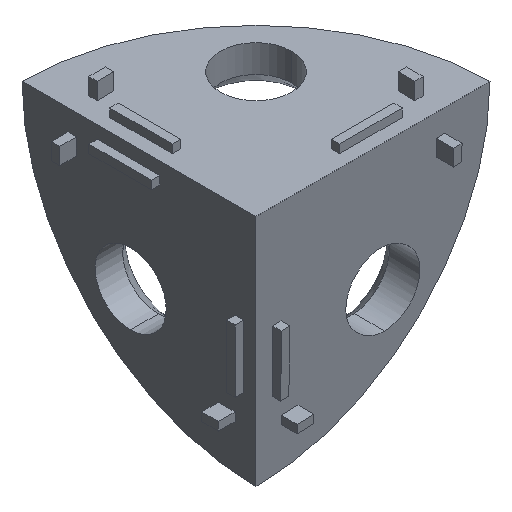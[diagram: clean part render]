
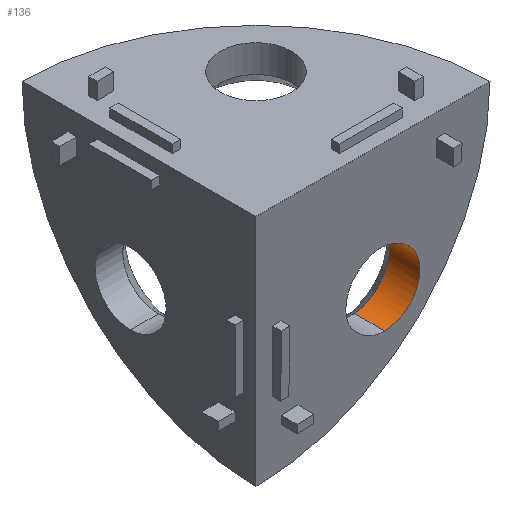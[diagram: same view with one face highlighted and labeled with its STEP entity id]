
A CAD part, isometric view. The second image highlights one B-rep face of the part: STEP entity #136.
In plain terms, the highlighted cylindrical face has radius 4.25 mm (diameter 8.5 mm), a partial arc.
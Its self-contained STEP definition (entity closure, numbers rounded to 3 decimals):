
#48 = ORIENTED_EDGE ( 'NONE', *, *, #531, .F. ) ;
#49 = CARTESIAN_POINT ( 'NONE',  ( 19.341, 3.515, -13.918 ) ) ;
#55 = CARTESIAN_POINT ( 'NONE',  ( 17.736, 2.208, -11.741 ) ) ;
#85 = VERTEX_POINT ( 'NONE', #1339 ) ;
#122 = CARTESIAN_POINT ( 'NONE',  ( 19.016, 3.633, -17.227 ) ) ;
#135 = EDGE_CURVE ( 'NONE', #672, #85, #337, .T. ) ;
#136 = ADVANCED_FACE ( 'NONE', ( #1470 ), #1717, .F. ) ;
#271 = CARTESIAN_POINT ( 'NONE',  ( 17.574, 3.297, -11.618 ) ) ;
#307 = EDGE_CURVE ( 'NONE', #2367, #672, #1448, .T. ) ;
#337 = B_SPLINE_CURVE_WITH_KNOTS ( 'NONE', 3,
 ( #617, #350, #55, #2262 ),
 .UNSPECIFIED., .F., .F.,
 ( 4, 4 ),
 ( 0., 0.003 ),
 .UNSPECIFIED. ) ;
#342 = CARTESIAN_POINT ( 'NONE',  ( 19.402, 3.528, -14.136 ) ) ;
#350 = CARTESIAN_POINT ( 'NONE',  ( 17.841, 1.106, -11.837 ) ) ;
#407 = CARTESIAN_POINT ( 'NONE',  ( 18.9, 3.635, -17.426 ) ) ;
#531 = EDGE_CURVE ( 'NONE', #1397, #85, #1660, .T. ) ;
#562 = CARTESIAN_POINT ( 'NONE',  ( 17.767, 3.316, -11.741 ) ) ;
#611 = CARTESIAN_POINT ( 'NONE',  ( 19.491, 3.552, -14.581 ) ) ;
#617 = CARTESIAN_POINT ( 'NONE',  ( 17.928, 0., -11.919 ) ) ;
#642 = CARTESIAN_POINT ( 'NONE',  ( 15.368, 0., -19.562 ) ) ;
#651 = ORIENTED_EDGE ( 'NONE', *, *, #135, .T. ) ;
#660 = CARTESIAN_POINT ( 'NONE',  ( 18.509, 3.635, -17.99 ) ) ;
#672 = VERTEX_POINT ( 'NONE', #2216 ) ;
#681 = EDGE_CURVE ( 'NONE', #1397, #2367, #1481, .T. ) ;
#787 = CARTESIAN_POINT ( 'NONE',  ( 17.948, 3.335, -11.879 ) ) ;
#833 = CARTESIAN_POINT ( 'NONE',  ( 19.518, 3.564, -14.81 ) ) ;
#879 = CARTESIAN_POINT ( 'NONE',  ( 17.058, 3.593, -19.079 ) ) ;
#897 = CARTESIAN_POINT ( 'NONE',  ( 18.193, 3.629, -18.318 ) ) ;
#980 = DIRECTION ( 'NONE',  ( 0.024, -0.999, -0.033 ) ) ;
#1005 = EDGE_LOOP ( 'NONE', ( #48, #1625, #1029, #651 ) ) ;
#1015 = CARTESIAN_POINT ( 'NONE',  ( 18.288, 3.371, -12.183 ) ) ;
#1029 = ORIENTED_EDGE ( 'NONE', *, *, #307, .T. ) ;
#1074 = CARTESIAN_POINT ( 'NONE',  ( 19.534, 3.584, -15.265 ) ) ;
#1122 = CARTESIAN_POINT ( 'NONE',  ( 16.188, 3.553, -19.371 ) ) ;
#1131 = CARTESIAN_POINT ( 'NONE',  ( 17.46, 3.608, -18.869 ) ) ;
#1218 = CARTESIAN_POINT ( 'NONE',  ( 15.117, 10.34, -19.216 ) ) ;
#1268 = CARTESIAN_POINT ( 'NONE',  ( 18.447, 3.389, -12.35 ) ) ;
#1320 = CARTESIAN_POINT ( 'NONE',  ( 19.524, 3.592, -15.492 ) ) ;
#1339 = CARTESIAN_POINT ( 'NONE',  ( 17.574, 3.297, -11.618 ) ) ;
#1364 = CARTESIAN_POINT ( 'NONE',  ( 15.74, 3.529, -19.444 ) ) ;
#1397 = VERTEX_POINT ( 'NONE', #2155 ) ;
#1448 =( BOUNDED_CURVE ( )  B_SPLINE_CURVE ( 3, ( #2328, #2082, #1846, #1588 ),
 .UNSPECIFIED., .F., .T. ) 
 B_SPLINE_CURVE_WITH_KNOTS ( ( 4, 4 ),
 ( 2.515, 5.008 ),
 .UNSPECIFIED. ) 
 CURVE ( )  GEOMETRIC_REPRESENTATION_ITEM ( )  RATIONAL_B_SPLINE_CURVE ( ( 1., 0.546, 0.546, 1. ) ) 
 REPRESENTATION_ITEM ( '' )  );
#1470 = FACE_OUTER_BOUND ( 'NONE', #1005, .T. ) ;
#1481 = LINE ( 'NONE', #1218, #2011 ) ;
#1521 = CARTESIAN_POINT ( 'NONE',  ( 18.731, 3.423, -12.703 ) ) ;
#1526 = DIRECTION ( 'NONE',  ( 0., 0.034, -0.999 ) ) ;
#1530 = AXIS2_PLACEMENT_3D ( 'NONE', #2020, #1768, #1526 ) ;
#1570 = CARTESIAN_POINT ( 'NONE',  ( 19.468, 3.608, -15.942 ) ) ;
#1588 = CARTESIAN_POINT ( 'NONE',  ( 17.928, 0., -11.919 ) ) ;
#1621 = CARTESIAN_POINT ( 'NONE',  ( 15.283, 3.501, -19.445 ) ) ;
#1625 = ORIENTED_EDGE ( 'NONE', *, *, #681, .T. ) ;
#1660 = B_SPLINE_CURVE_WITH_KNOTS ( 'NONE', 3,
 ( #1621, #1364, #1122, #879, #1131, #897, #660, #407, #122, #2312, #2065, #1827, #1570, #1320, #1074, #833, #611, #342, #49, #2257, #2014, #1763, #1521, #1268, #1015, #787, #562, #271 ),
 .UNSPECIFIED., .F., .F.,
 ( 4, 2, 2, 2, 2, 2, 2, 2, 2, 2, 2, 2, 2, 4 ),
 ( 0.003, 0.004, 0.006, 0.007, 0.008, 0.008, 0.009, 0.01, 0.01, 0.011, 0.012, 0.012, 0.013, 0.014 ),
 .UNSPECIFIED. ) ;
#1717 = CYLINDRICAL_SURFACE ( 'NONE', #1530, 4.25 ) ;
#1763 = CARTESIAN_POINT ( 'NONE',  ( 18.859, 3.44, -12.889 ) ) ;
#1768 = DIRECTION ( 'NONE',  ( 0.024, -0.999, -0.033 ) ) ;
#1827 = CARTESIAN_POINT ( 'NONE',  ( 19.421, 3.614, -16.168 ) ) ;
#1846 = CARTESIAN_POINT ( 'NONE',  ( 21.857, 0., -14.892 ) ) ;
#2011 = VECTOR ( 'NONE', #980, 1000. ) ;
#2014 = CARTESIAN_POINT ( 'NONE',  ( 19.084, 3.471, -13.283 ) ) ;
#2020 = CARTESIAN_POINT ( 'NONE',  ( 15.117, 10.197, -14.968 ) ) ;
#2065 = CARTESIAN_POINT ( 'NONE',  ( 19.292, 3.624, -16.606 ) ) ;
#2082 = CARTESIAN_POINT ( 'NONE',  ( 20.293, 0., -19.562 ) ) ;
#2155 = CARTESIAN_POINT ( 'NONE',  ( 15.283, 3.501, -19.445 ) ) ;
#2216 = CARTESIAN_POINT ( 'NONE',  ( 17.928, 0., -11.919 ) ) ;
#2257 = CARTESIAN_POINT ( 'NONE',  ( 19.182, 3.487, -13.493 ) ) ;
#2262 = CARTESIAN_POINT ( 'NONE',  ( 17.574, 3.297, -11.618 ) ) ;
#2312 = CARTESIAN_POINT ( 'NONE',  ( 19.211, 3.628, -16.818 ) ) ;
#2328 = CARTESIAN_POINT ( 'NONE',  ( 15.368, 0., -19.562 ) ) ;
#2367 = VERTEX_POINT ( 'NONE', #642 ) ;
